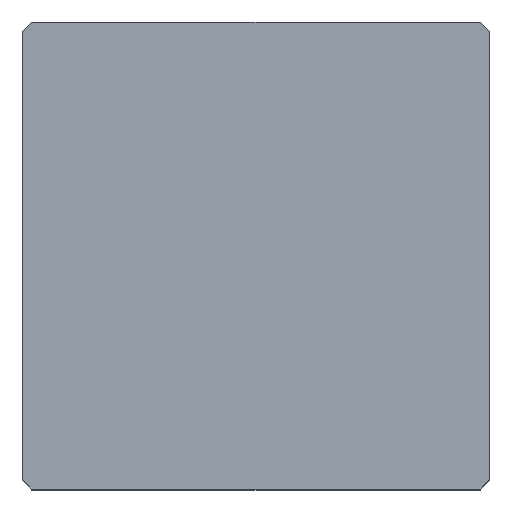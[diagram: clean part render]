
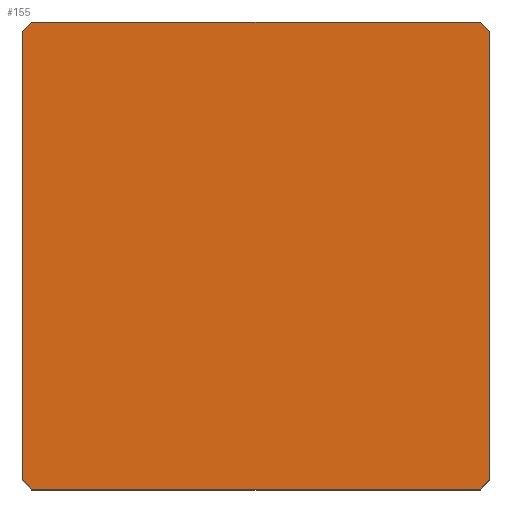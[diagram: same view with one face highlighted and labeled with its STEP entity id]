
A CAD part, top view. The second image highlights one B-rep face of the part: STEP entity #155.
In plain terms, the highlighted planar face has unit normal (0, 0, 1).
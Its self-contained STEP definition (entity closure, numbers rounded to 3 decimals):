
#39 = EDGE_CURVE('',#40,#42,#44,.T.);
#40 = VERTEX_POINT('',#41);
#41 = CARTESIAN_POINT('',(-10.,-9.6,22.75));
#42 = VERTEX_POINT('',#43);
#43 = CARTESIAN_POINT('',(-10.,9.6,22.75));
#44 = SURFACE_CURVE('',#45,(#49,#61),.PCURVE_S1.);
#45 = LINE('',#46,#47);
#46 = CARTESIAN_POINT('',(-10.,-10.,22.75));
#47 = VECTOR('',#48,1.);
#48 = DIRECTION('',(-0.,1.,0.));
#49 = PCURVE('',#50,#55);
#50 = PLANE('',#51);
#51 = AXIS2_PLACEMENT_3D('',#52,#53,#54);
#52 = CARTESIAN_POINT('',(-10.,-10.,0.));
#53 = DIRECTION('',(1.,0.,-0.));
#54 = DIRECTION('',(0.,0.,1.));
#55 = DEFINITIONAL_REPRESENTATION('',(#56),#60);
#56 = LINE('',#57,#58);
#57 = CARTESIAN_POINT('',(22.75,0.));
#58 = VECTOR('',#59,1.);
#59 = DIRECTION('',(0.,-1.));
#60 = ( GEOMETRIC_REPRESENTATION_CONTEXT(2) 
PARAMETRIC_REPRESENTATION_CONTEXT() REPRESENTATION_CONTEXT('2D SPACE',''
  ) );
#61 = PCURVE('',#62,#67);
#62 = PLANE('',#63);
#63 = AXIS2_PLACEMENT_3D('',#64,#65,#66);
#64 = CARTESIAN_POINT('',(-10.,-10.,22.75));
#65 = DIRECTION('',(0.,0.,1.));
#66 = DIRECTION('',(1.,0.,-0.));
#67 = DEFINITIONAL_REPRESENTATION('',(#68),#72);
#68 = LINE('',#69,#70);
#69 = CARTESIAN_POINT('',(0.,0.));
#70 = VECTOR('',#71,1.);
#71 = DIRECTION('',(0.,1.));
#72 = ( GEOMETRIC_REPRESENTATION_CONTEXT(2) 
PARAMETRIC_REPRESENTATION_CONTEXT() REPRESENTATION_CONTEXT('2D SPACE',''
  ) );
#90 = PLANE('',#91);
#91 = AXIS2_PLACEMENT_3D('',#92,#93,#94);
#92 = CARTESIAN_POINT('',(-9.8,-9.8,0.));
#93 = DIRECTION('',(-0.707,-0.707,0.));
#94 = DIRECTION('',(-0.,-0.,-1.));
#144 = PLANE('',#145);
#145 = AXIS2_PLACEMENT_3D('',#146,#147,#148);
#146 = CARTESIAN_POINT('',(-9.8,9.8,0.));
#147 = DIRECTION('',(0.707,-0.707,0.));
#148 = DIRECTION('',(-0.,-0.,-1.));
#155 = ADVANCED_FACE('',(#156),#62,.T.);
#156 = FACE_BOUND('',#157,.T.);
#157 = EDGE_LOOP('',(#158,#159,#182,#210,#238,#266,#294,#322));
#158 = ORIENTED_EDGE('',*,*,#39,.F.);
#159 = ORIENTED_EDGE('',*,*,#160,.T.);
#160 = EDGE_CURVE('',#40,#161,#163,.T.);
#161 = VERTEX_POINT('',#162);
#162 = CARTESIAN_POINT('',(-9.6,-10.,22.75));
#163 = SURFACE_CURVE('',#164,(#168,#175),.PCURVE_S1.);
#164 = LINE('',#165,#166);
#165 = CARTESIAN_POINT('',(-9.8,-9.8,22.75));
#166 = VECTOR('',#167,1.);
#167 = DIRECTION('',(0.707,-0.707,0.));
#168 = PCURVE('',#62,#169);
#169 = DEFINITIONAL_REPRESENTATION('',(#170),#174);
#170 = LINE('',#171,#172);
#171 = CARTESIAN_POINT('',(0.2,0.2));
#172 = VECTOR('',#173,1.);
#173 = DIRECTION('',(0.707,-0.707));
#174 = ( GEOMETRIC_REPRESENTATION_CONTEXT(2) 
PARAMETRIC_REPRESENTATION_CONTEXT() REPRESENTATION_CONTEXT('2D SPACE',''
  ) );
#175 = PCURVE('',#90,#176);
#176 = DEFINITIONAL_REPRESENTATION('',(#177),#181);
#177 = LINE('',#178,#179);
#178 = CARTESIAN_POINT('',(-22.75,0.));
#179 = VECTOR('',#180,1.);
#180 = DIRECTION('',(-0.,1.));
#181 = ( GEOMETRIC_REPRESENTATION_CONTEXT(2) 
PARAMETRIC_REPRESENTATION_CONTEXT() REPRESENTATION_CONTEXT('2D SPACE',''
  ) );
#182 = ORIENTED_EDGE('',*,*,#183,.T.);
#183 = EDGE_CURVE('',#161,#184,#186,.T.);
#184 = VERTEX_POINT('',#185);
#185 = CARTESIAN_POINT('',(9.6,-10.,22.75));
#186 = SURFACE_CURVE('',#187,(#191,#198),.PCURVE_S1.);
#187 = LINE('',#188,#189);
#188 = CARTESIAN_POINT('',(-10.,-10.,22.75));
#189 = VECTOR('',#190,1.);
#190 = DIRECTION('',(1.,0.,-0.));
#191 = PCURVE('',#62,#192);
#192 = DEFINITIONAL_REPRESENTATION('',(#193),#197);
#193 = LINE('',#194,#195);
#194 = CARTESIAN_POINT('',(0.,0.));
#195 = VECTOR('',#196,1.);
#196 = DIRECTION('',(1.,0.));
#197 = ( GEOMETRIC_REPRESENTATION_CONTEXT(2) 
PARAMETRIC_REPRESENTATION_CONTEXT() REPRESENTATION_CONTEXT('2D SPACE',''
  ) );
#198 = PCURVE('',#199,#204);
#199 = PLANE('',#200);
#200 = AXIS2_PLACEMENT_3D('',#201,#202,#203);
#201 = CARTESIAN_POINT('',(-10.,-10.,0.));
#202 = DIRECTION('',(-0.,1.,0.));
#203 = DIRECTION('',(0.,0.,1.));
#204 = DEFINITIONAL_REPRESENTATION('',(#205),#209);
#205 = LINE('',#206,#207);
#206 = CARTESIAN_POINT('',(22.75,0.));
#207 = VECTOR('',#208,1.);
#208 = DIRECTION('',(0.,1.));
#209 = ( GEOMETRIC_REPRESENTATION_CONTEXT(2) 
PARAMETRIC_REPRESENTATION_CONTEXT() REPRESENTATION_CONTEXT('2D SPACE',''
  ) );
#210 = ORIENTED_EDGE('',*,*,#211,.F.);
#211 = EDGE_CURVE('',#212,#184,#214,.T.);
#212 = VERTEX_POINT('',#213);
#213 = CARTESIAN_POINT('',(10.,-9.6,22.75));
#214 = SURFACE_CURVE('',#215,(#219,#226),.PCURVE_S1.);
#215 = LINE('',#216,#217);
#216 = CARTESIAN_POINT('',(4.8,-14.8,22.75));
#217 = VECTOR('',#218,1.);
#218 = DIRECTION('',(-0.707,-0.707,0.));
#219 = PCURVE('',#62,#220);
#220 = DEFINITIONAL_REPRESENTATION('',(#221),#225);
#221 = LINE('',#222,#223);
#222 = CARTESIAN_POINT('',(14.8,-4.8));
#223 = VECTOR('',#224,1.);
#224 = DIRECTION('',(-0.707,-0.707));
#225 = ( GEOMETRIC_REPRESENTATION_CONTEXT(2) 
PARAMETRIC_REPRESENTATION_CONTEXT() REPRESENTATION_CONTEXT('2D SPACE',''
  ) );
#226 = PCURVE('',#227,#232);
#227 = PLANE('',#228);
#228 = AXIS2_PLACEMENT_3D('',#229,#230,#231);
#229 = CARTESIAN_POINT('',(9.8,-9.8,0.));
#230 = DIRECTION('',(-0.707,0.707,0.));
#231 = DIRECTION('',(-0.,-0.,-1.));
#232 = DEFINITIONAL_REPRESENTATION('',(#233),#237);
#233 = LINE('',#234,#235);
#234 = CARTESIAN_POINT('',(-22.75,7.071));
#235 = VECTOR('',#236,1.);
#236 = DIRECTION('',(-0.,1.));
#237 = ( GEOMETRIC_REPRESENTATION_CONTEXT(2) 
PARAMETRIC_REPRESENTATION_CONTEXT() REPRESENTATION_CONTEXT('2D SPACE',''
  ) );
#238 = ORIENTED_EDGE('',*,*,#239,.T.);
#239 = EDGE_CURVE('',#212,#240,#242,.T.);
#240 = VERTEX_POINT('',#241);
#241 = CARTESIAN_POINT('',(10.,9.6,22.75));
#242 = SURFACE_CURVE('',#243,(#247,#254),.PCURVE_S1.);
#243 = LINE('',#244,#245);
#244 = CARTESIAN_POINT('',(10.,-10.,22.75));
#245 = VECTOR('',#246,1.);
#246 = DIRECTION('',(-0.,1.,0.));
#247 = PCURVE('',#62,#248);
#248 = DEFINITIONAL_REPRESENTATION('',(#249),#253);
#249 = LINE('',#250,#251);
#250 = CARTESIAN_POINT('',(20.,0.));
#251 = VECTOR('',#252,1.);
#252 = DIRECTION('',(0.,1.));
#253 = ( GEOMETRIC_REPRESENTATION_CONTEXT(2) 
PARAMETRIC_REPRESENTATION_CONTEXT() REPRESENTATION_CONTEXT('2D SPACE',''
  ) );
#254 = PCURVE('',#255,#260);
#255 = PLANE('',#256);
#256 = AXIS2_PLACEMENT_3D('',#257,#258,#259);
#257 = CARTESIAN_POINT('',(10.,-10.,0.));
#258 = DIRECTION('',(1.,0.,-0.));
#259 = DIRECTION('',(0.,0.,1.));
#260 = DEFINITIONAL_REPRESENTATION('',(#261),#265);
#261 = LINE('',#262,#263);
#262 = CARTESIAN_POINT('',(22.75,0.));
#263 = VECTOR('',#264,1.);
#264 = DIRECTION('',(0.,-1.));
#265 = ( GEOMETRIC_REPRESENTATION_CONTEXT(2) 
PARAMETRIC_REPRESENTATION_CONTEXT() REPRESENTATION_CONTEXT('2D SPACE',''
  ) );
#266 = ORIENTED_EDGE('',*,*,#267,.T.);
#267 = EDGE_CURVE('',#240,#268,#270,.T.);
#268 = VERTEX_POINT('',#269);
#269 = CARTESIAN_POINT('',(9.6,10.,22.75));
#270 = SURFACE_CURVE('',#271,(#275,#282),.PCURVE_S1.);
#271 = LINE('',#272,#273);
#272 = CARTESIAN_POINT('',(9.8,9.8,22.75));
#273 = VECTOR('',#274,1.);
#274 = DIRECTION('',(-0.707,0.707,0.));
#275 = PCURVE('',#62,#276);
#276 = DEFINITIONAL_REPRESENTATION('',(#277),#281);
#277 = LINE('',#278,#279);
#278 = CARTESIAN_POINT('',(19.8,19.8));
#279 = VECTOR('',#280,1.);
#280 = DIRECTION('',(-0.707,0.707));
#281 = ( GEOMETRIC_REPRESENTATION_CONTEXT(2) 
PARAMETRIC_REPRESENTATION_CONTEXT() REPRESENTATION_CONTEXT('2D SPACE',''
  ) );
#282 = PCURVE('',#283,#288);
#283 = PLANE('',#284);
#284 = AXIS2_PLACEMENT_3D('',#285,#286,#287);
#285 = CARTESIAN_POINT('',(9.8,9.8,0.));
#286 = DIRECTION('',(0.707,0.707,0.));
#287 = DIRECTION('',(-0.,0.,-1.));
#288 = DEFINITIONAL_REPRESENTATION('',(#289),#293);
#289 = LINE('',#290,#291);
#290 = CARTESIAN_POINT('',(-22.75,0.));
#291 = VECTOR('',#292,1.);
#292 = DIRECTION('',(-0.,1.));
#293 = ( GEOMETRIC_REPRESENTATION_CONTEXT(2) 
PARAMETRIC_REPRESENTATION_CONTEXT() REPRESENTATION_CONTEXT('2D SPACE',''
  ) );
#294 = ORIENTED_EDGE('',*,*,#295,.F.);
#295 = EDGE_CURVE('',#296,#268,#298,.T.);
#296 = VERTEX_POINT('',#297);
#297 = CARTESIAN_POINT('',(-9.6,10.,22.75));
#298 = SURFACE_CURVE('',#299,(#303,#310),.PCURVE_S1.);
#299 = LINE('',#300,#301);
#300 = CARTESIAN_POINT('',(-10.,10.,22.75));
#301 = VECTOR('',#302,1.);
#302 = DIRECTION('',(1.,0.,-0.));
#303 = PCURVE('',#62,#304);
#304 = DEFINITIONAL_REPRESENTATION('',(#305),#309);
#305 = LINE('',#306,#307);
#306 = CARTESIAN_POINT('',(0.,20.));
#307 = VECTOR('',#308,1.);
#308 = DIRECTION('',(1.,0.));
#309 = ( GEOMETRIC_REPRESENTATION_CONTEXT(2) 
PARAMETRIC_REPRESENTATION_CONTEXT() REPRESENTATION_CONTEXT('2D SPACE',''
  ) );
#310 = PCURVE('',#311,#316);
#311 = PLANE('',#312);
#312 = AXIS2_PLACEMENT_3D('',#313,#314,#315);
#313 = CARTESIAN_POINT('',(-10.,10.,0.));
#314 = DIRECTION('',(-0.,1.,0.));
#315 = DIRECTION('',(0.,0.,1.));
#316 = DEFINITIONAL_REPRESENTATION('',(#317),#321);
#317 = LINE('',#318,#319);
#318 = CARTESIAN_POINT('',(22.75,0.));
#319 = VECTOR('',#320,1.);
#320 = DIRECTION('',(0.,1.));
#321 = ( GEOMETRIC_REPRESENTATION_CONTEXT(2) 
PARAMETRIC_REPRESENTATION_CONTEXT() REPRESENTATION_CONTEXT('2D SPACE',''
  ) );
#322 = ORIENTED_EDGE('',*,*,#323,.F.);
#323 = EDGE_CURVE('',#42,#296,#324,.T.);
#324 = SURFACE_CURVE('',#325,(#329,#336),.PCURVE_S1.);
#325 = LINE('',#326,#327);
#326 = CARTESIAN_POINT('',(-14.8,4.8,22.75));
#327 = VECTOR('',#328,1.);
#328 = DIRECTION('',(0.707,0.707,-0.));
#329 = PCURVE('',#62,#330);
#330 = DEFINITIONAL_REPRESENTATION('',(#331),#335);
#331 = LINE('',#332,#333);
#332 = CARTESIAN_POINT('',(-4.8,14.8));
#333 = VECTOR('',#334,1.);
#334 = DIRECTION('',(0.707,0.707));
#335 = ( GEOMETRIC_REPRESENTATION_CONTEXT(2) 
PARAMETRIC_REPRESENTATION_CONTEXT() REPRESENTATION_CONTEXT('2D SPACE',''
  ) );
#336 = PCURVE('',#144,#337);
#337 = DEFINITIONAL_REPRESENTATION('',(#338),#342);
#338 = LINE('',#339,#340);
#339 = CARTESIAN_POINT('',(-22.75,-7.071));
#340 = VECTOR('',#341,1.);
#341 = DIRECTION('',(-0.,1.));
#342 = ( GEOMETRIC_REPRESENTATION_CONTEXT(2) 
PARAMETRIC_REPRESENTATION_CONTEXT() REPRESENTATION_CONTEXT('2D SPACE',''
  ) );
